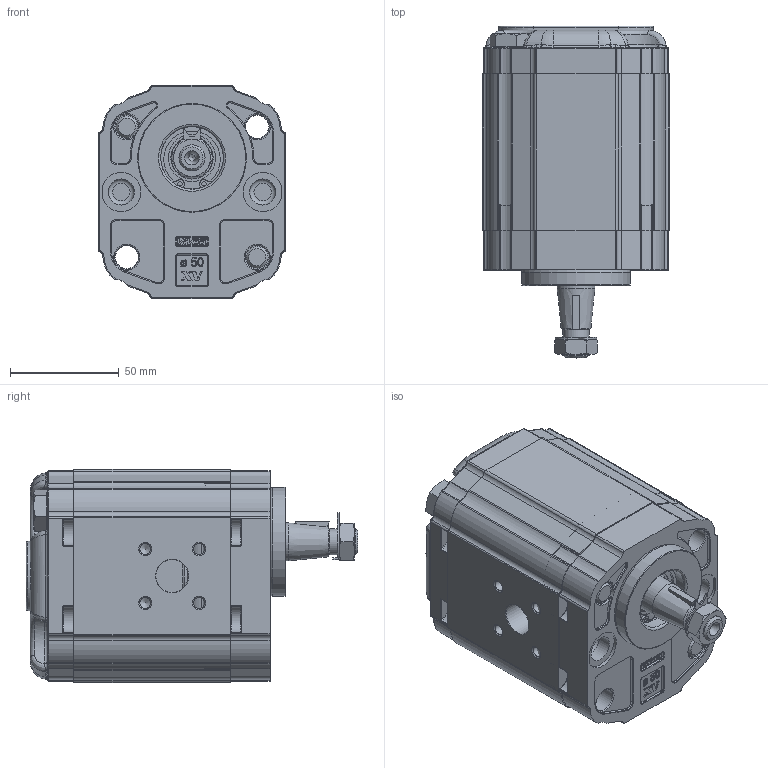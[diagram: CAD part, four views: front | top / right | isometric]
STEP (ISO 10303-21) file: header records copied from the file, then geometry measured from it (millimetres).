
FILE_DESCRIPTION( ( 'Unknown' ), '1' );
FILE_NAME( 'P:/montaggio_easy/output/STP/X2R5307FRRE.stp', 'Unknown', ( 'Unknown' ), ( 'Unknown' ), 'PSStep 14.0', 'Unknown', ' ' );
FILE_SCHEMA( ( 'AUTOMOTIVE_DESIGN { 1 0 10303 214 1 1 1 1 }' ) );
Length unit declared in the file: millimetre
Products named in the file (5): Assem1; X2R07; 2F; X2RRH72; XR210-E
Bounding box: 86 x 152.65 x 98 mm (x, y, z)
Surface area: 216747.1 mm2
Topology: 8 solids, 14 shells, 2534 faces, 6484 edges, 4134 vertices
Faces by surface type: plane 1094, cylinder 746, torus 238, extrusion 212, bspline 126, cone 118
Full cylindrical faces by diameter (mm): 2 x4, 5 x16, 8.5 x4, 10.5 x12, 11 x8, 11.445 x2, 12 x8, 12.5 x2, 15 x4, 16 x4, 17.42 x2, 17.48 x4, 18.724 x2, 20.595 x2, 21.741 x2, 25.834 x2, 28.56 x2, 28.57 x2, 28.8 x2, 30.5 x2, 50 x2
Entity records: 54025 total; most frequent: CARTESIAN_POINT 13768, ORIENTED_EDGE 6224, DIRECTION 6106, EDGE_CURVE 3112, AXIS2_PLACEMENT_3D 2147, VERTEX_POINT 2033, VECTOR 1812, LINE 1706
